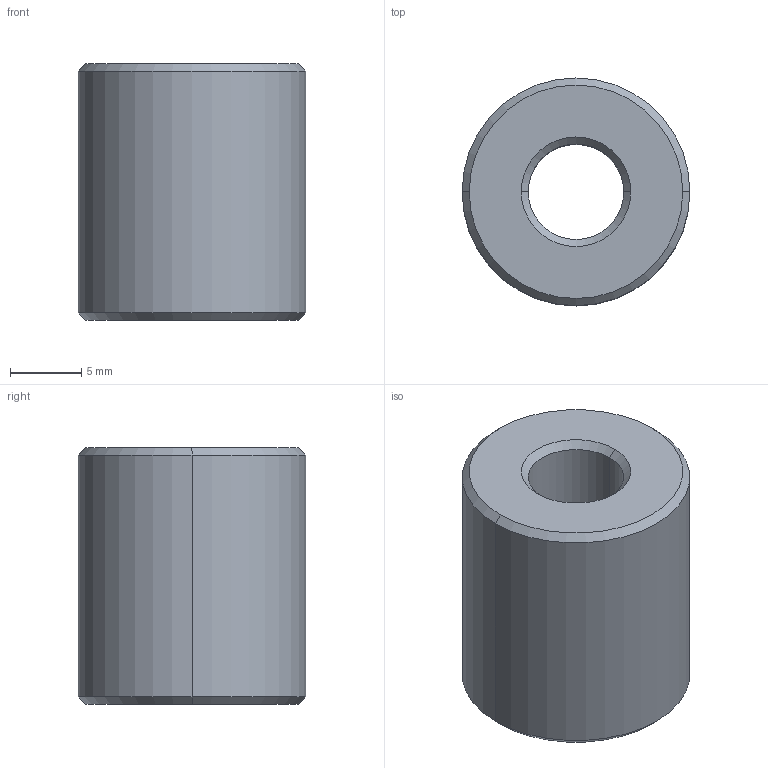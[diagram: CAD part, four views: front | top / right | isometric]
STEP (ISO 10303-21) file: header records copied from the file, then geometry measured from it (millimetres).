
FILE_DESCRIPTION(('STEP AP242'),'1');
FILE_NAME('951-3-g.stp','2023-12-04T09:49:06',('TraceParts'),('TraceParts S.A.'),'Spatial InterOp 3D',' ',' ');
FILE_SCHEMA(('AP242_MANAGED_MODEL_BASED_3D_ENGINEERING_MIM_LF {1 0 10303 442 1 1 4}'));
Length unit declared in the file: millimetre
Products named in the file (1): 951-3-g
Bounding box: 16 x 16 x 18 mm (x, y, z)
Volume: 2966.7 mm3; surface area: 1573.5 mm2
Topology: 1 solids, 1 shells, 14 faces, 28 edges, 16 vertices
Faces by surface type: cone 8, cylinder 4, plane 2
Entity records: 393 total; most frequent: DIRECTION 74, CARTESIAN_POINT 59, ORIENTED_EDGE 56, AXIS2_PLACEMENT_3D 31, EDGE_CURVE 28, EDGE_LOOP 16, VERTEX_POINT 16, CIRCLE 16
